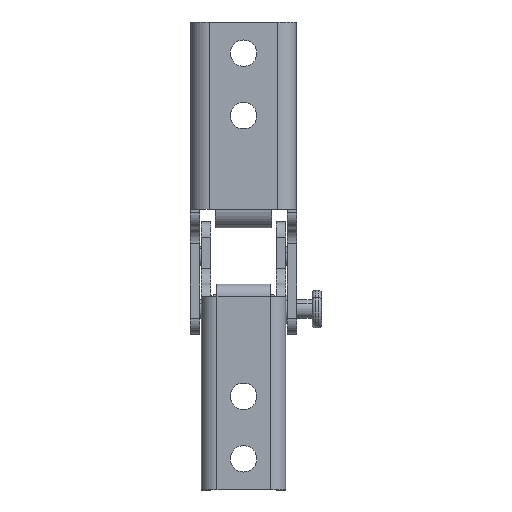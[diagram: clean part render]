
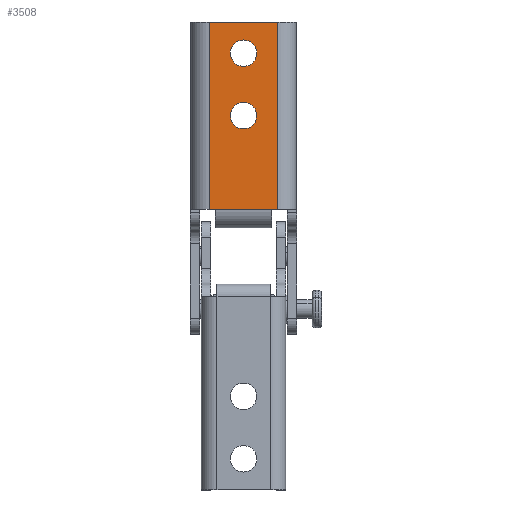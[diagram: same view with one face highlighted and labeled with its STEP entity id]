
A CAD part, front view. The second image highlights one B-rep face of the part: STEP entity #3508.
In plain terms, the highlighted planar face has unit normal (0, -1, 0).
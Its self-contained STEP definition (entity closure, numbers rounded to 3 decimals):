
#135 = EDGE_CURVE ( 'NONE', #11561, #8325, #12503, .T. ) ;
#213 = VERTEX_POINT ( 'NONE', #2792 ) ;
#425 = DIRECTION ( 'NONE',  ( 0., 0., 1. ) ) ;
#514 = EDGE_CURVE ( 'NONE', #12361, #213, #5616, .T. ) ;
#942 = VERTEX_POINT ( 'NONE', #6738 ) ;
#1047 = DIRECTION ( 'NONE',  ( 1., 0., 0. ) ) ;
#1229 = DIRECTION ( 'NONE',  ( 0., 0., 1. ) ) ;
#1266 = DIRECTION ( 'NONE',  ( 0., 0., -1. ) ) ;
#1394 = CARTESIAN_POINT ( 'NONE',  ( 14., -3., 94.25 ) ) ;
#1444 = DIRECTION ( 'NONE',  ( 0., -1., 0. ) ) ;
#1574 = EDGE_CURVE ( 'NONE', #213, #12361, #11856, .T. ) ;
#1870 = EDGE_LOOP ( 'NONE', ( #9571, #5145 ) ) ;
#1936 = CARTESIAN_POINT ( 'NONE',  ( 31., -3., 40. ) ) ;
#2191 = CARTESIAN_POINT ( 'NONE',  ( 3., -3., 100. ) ) ;
#2211 = AXIS2_PLACEMENT_3D ( 'NONE', #5116, #3101, #9556 ) ;
#2249 = LINE ( 'NONE', #6660, #8230 ) ;
#2327 = EDGE_CURVE ( 'NONE', #11561, #942, #6609, .T. ) ;
#2510 = VECTOR ( 'NONE', #1047, 1000. ) ;
#2681 = CARTESIAN_POINT ( 'NONE',  ( 3., -3., 40. ) ) ;
#2792 = CARTESIAN_POINT ( 'NONE',  ( 14., -3., 85.75 ) ) ;
#3075 = DIRECTION ( 'NONE',  ( 0., 0., 1. ) ) ;
#3101 = DIRECTION ( 'NONE',  ( 0., -1., 0. ) ) ;
#3163 = EDGE_CURVE ( 'NONE', #4708, #11422, #10246, .T. ) ;
#3465 = DIRECTION ( 'NONE',  ( 0., 1., 0. ) ) ;
#3508 = ADVANCED_FACE ( 'NONE', ( #8713, #6515, #5495 ), #7603, .F. ) ;
#3553 = LINE ( 'NONE', #13358, #5281 ) ;
#3987 = VECTOR ( 'NONE', #14128, 1000. ) ;
#3993 = EDGE_CURVE ( 'NONE', #11422, #4708, #9385, .T. ) ;
#4093 = CARTESIAN_POINT ( 'NONE',  ( 3., -3., 40. ) ) ;
#4225 = CARTESIAN_POINT ( 'NONE',  ( 14., -3., 74.25 ) ) ;
#4520 = ORIENTED_EDGE ( 'NONE', *, *, #3163, .F. ) ;
#4708 = VERTEX_POINT ( 'NONE', #7620 ) ;
#4990 = ORIENTED_EDGE ( 'NONE', *, *, #2327, .F. ) ;
#5082 = CARTESIAN_POINT ( 'NONE',  ( 23., -3., 40. ) ) ;
#5116 = CARTESIAN_POINT ( 'NONE',  ( 14., -3., 70. ) ) ;
#5145 = ORIENTED_EDGE ( 'NONE', *, *, #514, .F. ) ;
#5164 = CARTESIAN_POINT ( 'NONE',  ( 14., -3., 70. ) ) ;
#5247 = EDGE_LOOP ( 'NONE', ( #4520, #5721 ) ) ;
#5281 = VECTOR ( 'NONE', #8044, 1000. ) ;
#5495 = FACE_OUTER_BOUND ( 'NONE', #9904, .T. ) ;
#5616 = CIRCLE ( 'NONE', #10948, 4.25 ) ;
#5642 = ORIENTED_EDGE ( 'NONE', *, *, #6499, .F. ) ;
#5721 = ORIENTED_EDGE ( 'NONE', *, *, #3993, .F. ) ;
#5844 = AXIS2_PLACEMENT_3D ( 'NONE', #5164, #8379, #3075 ) ;
#5887 = CARTESIAN_POINT ( 'NONE',  ( 3., -3., 100. ) ) ;
#6499 = EDGE_CURVE ( 'NONE', #942, #6844, #3553, .T. ) ;
#6515 = FACE_BOUND ( 'NONE', #5247, .T. ) ;
#6555 = LINE ( 'NONE', #4093, #8218 ) ;
#6609 = LINE ( 'NONE', #10030, #2510 ) ;
#6621 = CARTESIAN_POINT ( 'NONE',  ( 25., -3., 40. ) ) ;
#6660 = CARTESIAN_POINT ( 'NONE',  ( 31., -3., 40. ) ) ;
#6738 = CARTESIAN_POINT ( 'NONE',  ( 25., -3., 100. ) ) ;
#6747 = VECTOR ( 'NONE', #1266, 1000. ) ;
#6844 = VERTEX_POINT ( 'NONE', #6621 ) ;
#7457 = AXIS2_PLACEMENT_3D ( 'NONE', #11295, #1444, #425 ) ;
#7603 = PLANE ( 'NONE',  #9916 ) ;
#7620 = CARTESIAN_POINT ( 'NONE',  ( 14., -3., 65.75 ) ) ;
#7679 = CARTESIAN_POINT ( 'NONE',  ( 0., -3., 100. ) ) ;
#7733 = ORIENTED_EDGE ( 'NONE', *, *, #8024, .F. ) ;
#7782 = ORIENTED_EDGE ( 'NONE', *, *, #135, .T. ) ;
#7928 = CARTESIAN_POINT ( 'NONE',  ( 14., -3., 90. ) ) ;
#8024 = EDGE_CURVE ( 'NONE', #6844, #12522, #13834, .T. ) ;
#8044 = DIRECTION ( 'NONE',  ( 0., 0., -1. ) ) ;
#8218 = VECTOR ( 'NONE', #12942, 1000. ) ;
#8230 = VECTOR ( 'NONE', #8933, 1000. ) ;
#8325 = VERTEX_POINT ( 'NONE', #2681 ) ;
#8379 = DIRECTION ( 'NONE',  ( 0., -1., 0. ) ) ;
#8713 = FACE_BOUND ( 'NONE', #1870, .T. ) ;
#8933 = DIRECTION ( 'NONE',  ( -1., 0., 0. ) ) ;
#9260 = VERTEX_POINT ( 'NONE', #11705 ) ;
#9385 = CIRCLE ( 'NONE', #2211, 4.25 ) ;
#9556 = DIRECTION ( 'NONE',  ( 0., 0., 1. ) ) ;
#9571 = ORIENTED_EDGE ( 'NONE', *, *, #1574, .F. ) ;
#9613 = ORIENTED_EDGE ( 'NONE', *, *, #10869, .T. ) ;
#9904 = EDGE_LOOP ( 'NONE', ( #7782, #9613, #11242, #7733, #5642, #4990 ) ) ;
#9916 = AXIS2_PLACEMENT_3D ( 'NONE', #7679, #3465, #1229 ) ;
#10020 = EDGE_CURVE ( 'NONE', #12522, #9260, #2249, .T. ) ;
#10030 = CARTESIAN_POINT ( 'NONE',  ( 0., -3., 100. ) ) ;
#10104 = DIRECTION ( 'NONE',  ( 0., -1., 0. ) ) ;
#10246 = CIRCLE ( 'NONE', #5844, 4.25 ) ;
#10869 = EDGE_CURVE ( 'NONE', #8325, #9260, #6555, .T. ) ;
#10948 = AXIS2_PLACEMENT_3D ( 'NONE', #7928, #10104, #11260 ) ;
#11242 = ORIENTED_EDGE ( 'NONE', *, *, #10020, .F. ) ;
#11260 = DIRECTION ( 'NONE',  ( 0., 0., 1. ) ) ;
#11295 = CARTESIAN_POINT ( 'NONE',  ( 14., -3., 90. ) ) ;
#11422 = VERTEX_POINT ( 'NONE', #4225 ) ;
#11561 = VERTEX_POINT ( 'NONE', #2191 ) ;
#11705 = CARTESIAN_POINT ( 'NONE',  ( 5., -3., 40. ) ) ;
#11856 = CIRCLE ( 'NONE', #7457, 4.25 ) ;
#12361 = VERTEX_POINT ( 'NONE', #1394 ) ;
#12503 = LINE ( 'NONE', #5887, #6747 ) ;
#12522 = VERTEX_POINT ( 'NONE', #5082 ) ;
#12942 = DIRECTION ( 'NONE',  ( 1., 0., 0. ) ) ;
#13358 = CARTESIAN_POINT ( 'NONE',  ( 25., -3., 100. ) ) ;
#13834 = LINE ( 'NONE', #1936, #3987 ) ;
#14128 = DIRECTION ( 'NONE',  ( -1., 0., 0. ) ) ;
